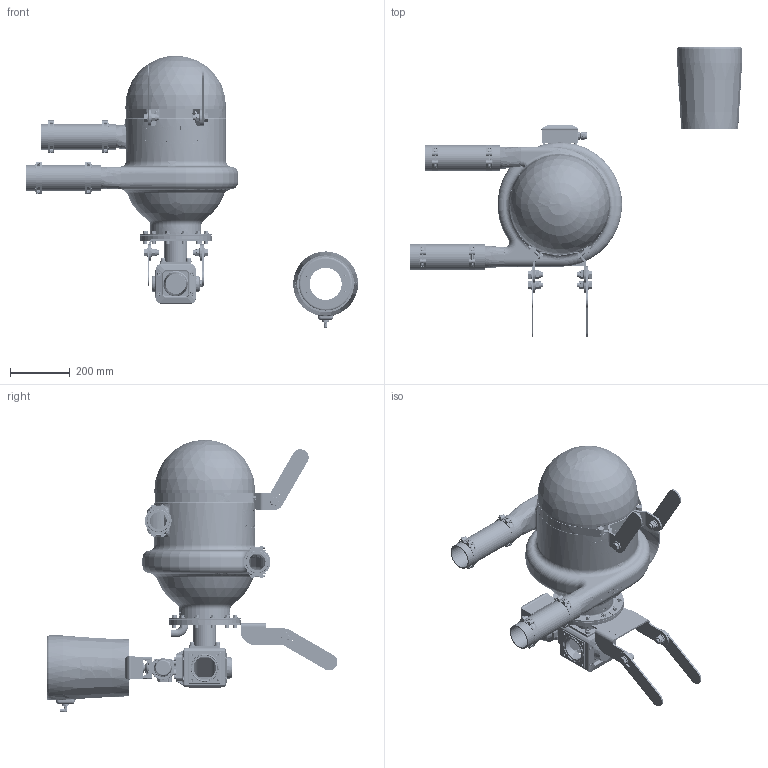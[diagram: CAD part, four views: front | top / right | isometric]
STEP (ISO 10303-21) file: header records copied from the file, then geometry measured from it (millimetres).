
FILE_DESCRIPTION(/* description */ (''),/* implementation_level */ '2;1');
FILE_NAME(/* name */ '1700114B.stp',/* time_stamp */ '2026-06-04T11:30:10+02:00',/* author */ ('JJ'),/* organization */ (''),/* preprocessor_version */ 'ST-DEVELOPER v20',/* originating_system */ 'Autodesk Inventor 2025',/* authorisation */ '');
FILE_SCHEMA (('AUTOMOTIVE_DESIGN { 1 0 10303 214 3 1 1 }'));
Length unit declared in the file: millimetre
Products named in the file (43): 1700114; 1633550; 1633551; 1633553; 1633554; 1633555; 1633552; 925200019; 925000776; 1633557; 1633520; 1633368; 1633521; 1634898_Simplify; 910100135; 910300051; 910000400; 910100148; 910200050; 910000460; 1633524; 910300433; 910100004; 910200120; 1633523; 1633545; 927000166; 918000285; 1633586; 1633587; 1633573; 922000269; 925000889; 1633592; 1633593; 1633591; 1633590; 1633589; 944600133; 1633581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
Assembly tree (137 placements, depth 4):
  1700114
    1633550
      1633551
      1633553
      1633554
      1633555
      1633552
      925200019
      925000776
    1633557
    1633520
    1633368  x2
    1633521  x4
    1634898_Simplify
    910100135  x4
    910300051  x4
    910100148  x8
    910000400  x4
    910200050  x4
    910100004  x24
    910200120  x12
    910000460  x2
    1633524  x2
    910300433  x12
    1633523
    1633545
    927000166  x2
    918000285  x4
    1633586
      1633587
      1633573
      922000269
      925000889
      1633592
      1633593
      1633591
        1633590
        1633589
      910100200  x8
      944600133
      1633581
      910200105  x8
      910100125  x8
Bounding box: 1108.13 x 970.76 x 909.75 mm (x, y, z)
Volume: 14901752.6 mm3; surface area: 3896206 mm2
Topology: 175 solids, 176 shells, 10793 faces, 27432 edges, 17385 vertices
Faces by surface type: plane 4207, bspline 2847, cylinder 2102, cone 862, torus 690, sphere 85
Full cylindrical faces by diameter (mm): 3.3 x4, 4 x2, 4.134 x6, 4.917 x25, 5 x8, 6 x33, 6.4 x8, 6.5 x8, 6.917 x12, 7 x16, 8 x14, 8.376 x18, 8.4 x24, 8.5 x12, 8.566 x1, 8.88 x4, 9.188 x2, 9.5 x1, 10 x50, 10.5 x6, 11 x5, 11.5 x1, 12 x30, 13 x20, 13.3 x4, 13.835 x4, 14 x12, 14.376 x1, 14.76 x1, 14.9 x1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
Entity records: 376403 total; most frequent: CARTESIAN_POINT 164034, ORIENTED_EDGE 46230, DIRECTION 35615, EDGE_CURVE 23115, VERTEX_POINT 14736, AXIS2_PLACEMENT_3D 12290, LINE 11035, VECTOR 11035
